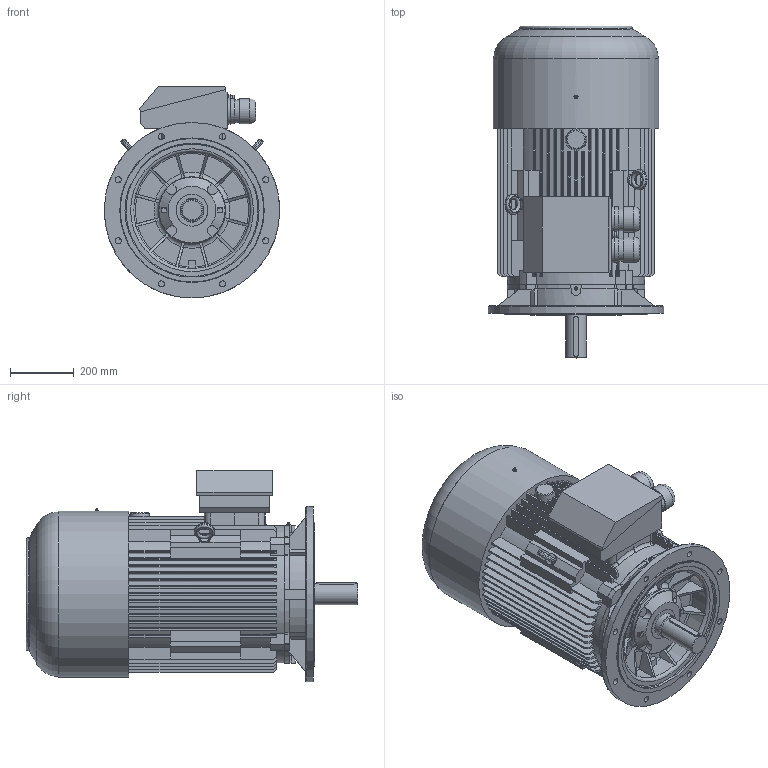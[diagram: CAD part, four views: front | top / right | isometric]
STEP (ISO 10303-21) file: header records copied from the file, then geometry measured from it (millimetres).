
FILE_DESCRIPTION(/* description */ ('Unknown'),/* implementation_level */ '2;1');
FILE_NAME(/* name */ '3SIEK250M4_8',/* time_stamp */ '2021-04-12T13:13:48+02:00',/* author */ ('Unknown'),/* organization */ ('Unknown'),/* preprocessor_version */ 'ST-DEVELOPER v16.7',/* originating_system */ 'DEX',/* authorisation */ $);
FILE_SCHEMA (('AUTOMOTIVE_DESIGN {1 0 10303 214 3 1 1}'));
Length unit declared in the file: millimetre
Products named in the file (1): 2SIEK250M4_6 silnik
Bounding box: 550 x 1040 x 664.3 mm (x, y, z)
Volume: 161140389.2 mm3; surface area: 3707562.4 mm2
Topology: 3 solids, 6 shells, 807 faces, 2223 edges, 1462 vertices
Faces by surface type: plane 575, cylinder 160, torus 48, bspline 13, cone 11
Full cylindrical faces by diameter (mm): 1.6 x2, 5 x6, 11.083 x1, 19 x9, 21 x1, 23 x1, 27 x1, 35 x4, 40 x2, 65 x1, 71.32 x2, 74.5 x1, 78.781 x2, 80.024 x2, 81.268 x2, 100 x1, 208 x1, 210 x1, 450 x1, 520 x1, 550 x1
Entity records: 31507 total; most frequent: CARTESIAN_POINT 5581, ORIENTED_EDGE 4246, DIRECTION 4085, EDGE_CURVE 2123, VERTEX_POINT 1437, LINE 1409, VECTOR 1409, AXIS2_PLACEMENT_3D 1338
